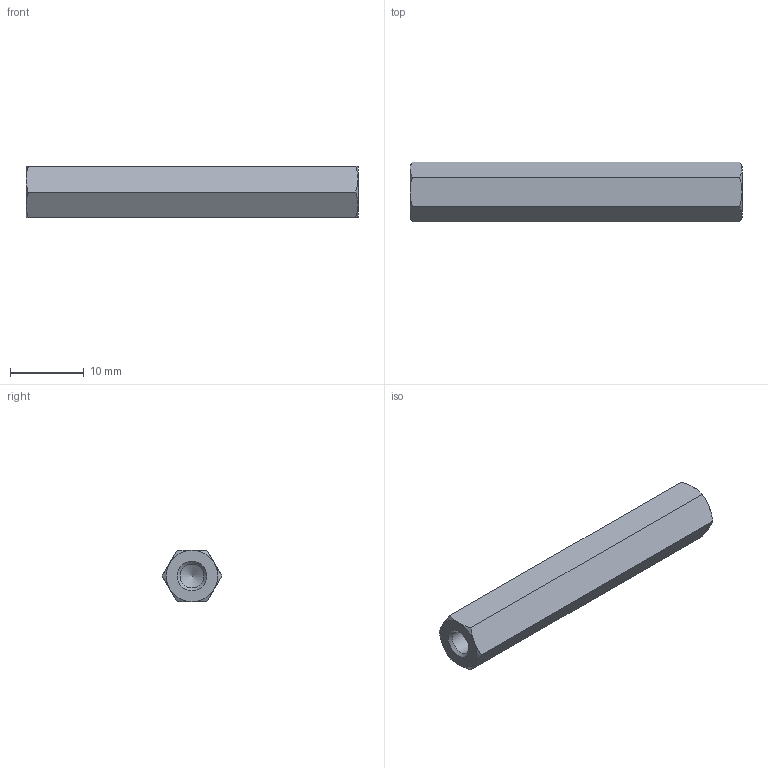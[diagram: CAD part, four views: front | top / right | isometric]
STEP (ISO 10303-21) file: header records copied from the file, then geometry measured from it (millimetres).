
FILE_DESCRIPTION( ( 'STEP AP203' ), '1' );
FILE_NAME( 'C:/Temp/Ganter_Step_05_03_2020/data/3_2/gn6220/gn6220_ni/Stainless Steel-Spacer GN 6220-NI-M4-45-A.stp', '2020-03-13T05:42:58', ( 'License CC BY-ND 4.0' ), ( 'CADENAS' ), ' ', 'PARTsolutions', ' ' );
FILE_SCHEMA( ( 'CONFIG_CONTROL_DESIGN' ) );
Length unit declared in the file: millimetre
Products named in the file (1): _Stainless Steel-Spacer GN 6220-NI-M4-45-A
Bounding box: 45 x 8.08 x 7 mm (x, y, z)
Volume: 1674.1 mm3; surface area: 1451.8 mm2
Topology: 1 solids, 1 shells, 26 faces, 57 edges, 33 vertices
Faces by surface type: cone 16, plane 8, cylinder 2
Full cylindrical faces by diameter (mm): 3.242 x2
Entity records: 750 total; most frequent: CARTESIAN_POINT 211, DIRECTION 96, ORIENTED_EDGE 96, EDGE_CURVE 48, AXIS2_PLACEMENT_3D 45, EDGE_LOOP 32, VERTEX_POINT 32, FACE_OUTER_BOUND 28
